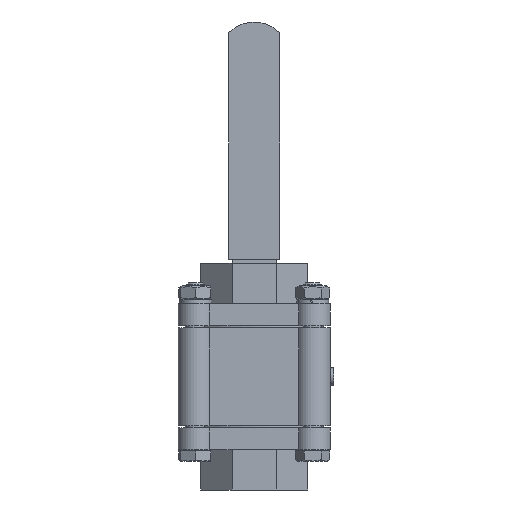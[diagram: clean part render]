
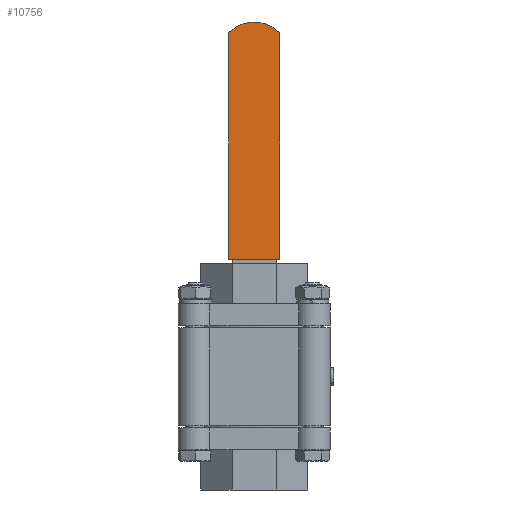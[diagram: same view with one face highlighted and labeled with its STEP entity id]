
A CAD part, front view. The second image highlights one B-rep face of the part: STEP entity #10756.
In plain terms, the highlighted planar face has unit normal (0, -1, 0).
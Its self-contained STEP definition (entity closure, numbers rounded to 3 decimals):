
#535=PLANE('',#11523);
#1172=FACE_OUTER_BOUND('',#1799,.T.);
#1799=EDGE_LOOP('',(#8046,#8047,#8048,#8049));
#2474=CIRCLE('',#11521,20.);
#3054=LINE('',#16205,#3973);
#3056=LINE('',#16209,#3975);
#3057=LINE('',#16210,#3976);
#3973=VECTOR('',#13107,10.);
#3975=VECTOR('',#13111,10.);
#3976=VECTOR('',#13112,10.);
#4937=VERTEX_POINT('',#16198);
#4938=VERTEX_POINT('',#16199);
#4939=VERTEX_POINT('',#16204);
#4940=VERTEX_POINT('',#16208);
#6107=EDGE_CURVE('',#4937,#4938,#2474,.T.);
#6110=EDGE_CURVE('',#4939,#4937,#3054,.T.);
#6112=EDGE_CURVE('',#4940,#4938,#3056,.T.);
#6113=EDGE_CURVE('',#4939,#4940,#3057,.T.);
#8046=ORIENTED_EDGE('',*,*,#6107,.T.);
#8047=ORIENTED_EDGE('',*,*,#6112,.F.);
#8048=ORIENTED_EDGE('',*,*,#6113,.F.);
#8049=ORIENTED_EDGE('',*,*,#6110,.T.);
#10756=ADVANCED_FACE('',(#1172),#535,.T.);
#11521=AXIS2_PLACEMENT_3D('',#16200,#13101,#13102);
#11523=AXIS2_PLACEMENT_3D('',#16207,#13109,#13110);
#13101=DIRECTION('center_axis',(0.,-1.,0.));
#13102=DIRECTION('ref_axis',(-0.725,0.,0.689));
#13107=DIRECTION('',(0.,0.,1.));
#13109=DIRECTION('center_axis',(0.,-1.,0.));
#13110=DIRECTION('ref_axis',(1.,0.,0.));
#13111=DIRECTION('',(0.,0.,1.));
#13112=DIRECTION('',(-1.,0.,0.));
#16198=CARTESIAN_POINT('',(23.163,95.038,195.775));
#16199=CARTESIAN_POINT('',(-5.837,95.038,195.775));
#16200=CARTESIAN_POINT('Origin',(8.663,95.038,182.));
#16204=CARTESIAN_POINT('',(23.163,95.038,67.));
#16205=CARTESIAN_POINT('',(23.163,95.038,67.));
#16207=CARTESIAN_POINT('Origin',(-5.837,95.038,67.));
#16208=CARTESIAN_POINT('',(-5.837,95.038,67.));
#16209=CARTESIAN_POINT('',(-5.837,95.038,67.));
#16210=CARTESIAN_POINT('',(23.163,95.038,67.));
